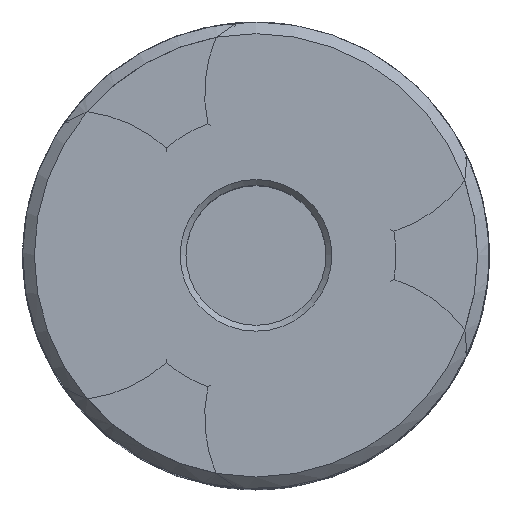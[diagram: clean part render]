
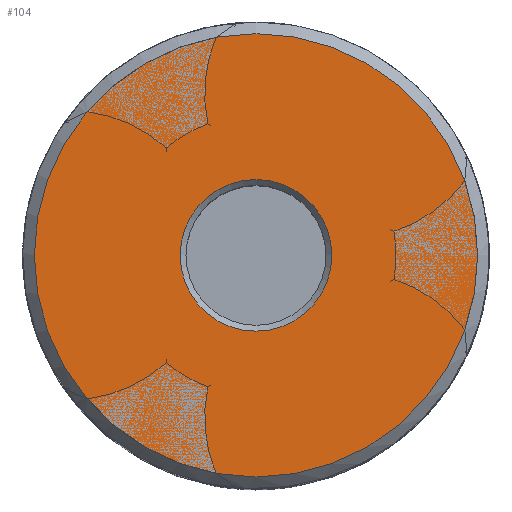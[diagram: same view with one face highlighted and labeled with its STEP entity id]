
A CAD part, top view. The second image highlights one B-rep face of the part: STEP entity #104.
In plain terms, the highlighted planar face has unit normal (0, 0, 1) as drawn and (0, 0, -1) by its records, which use the part's own axes.
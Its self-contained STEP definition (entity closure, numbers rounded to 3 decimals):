
#104 = ADVANCED_FACE( '', ( #227, #228 ), #229, .T. );
#227 = FACE_OUTER_BOUND( '', #382, .T. );
#228 = FACE_BOUND( '', #383, .T. );
#229 = PLANE( '', #384 );
#382 = EDGE_LOOP( '', ( #653 ) );
#383 = EDGE_LOOP( '', ( #654 ) );
#384 = AXIS2_PLACEMENT_3D( '', #655, #656, #657 );
#653 = ORIENTED_EDGE( '', *, *, #1138, .T. );
#654 = ORIENTED_EDGE( '', *, *, #1139, .T. );
#655 = CARTESIAN_POINT( '', ( 0., 0., 0. ) );
#656 = DIRECTION( '', ( 0., 0., -1. ) );
#657 = DIRECTION( '', ( 0., -1., 0. ) );
#1138 = EDGE_CURVE( '', #1474, #1474, #1475, .T. );
#1139 = EDGE_CURVE( '', #1476, #1476, #1477, .F. );
#1474 = VERTEX_POINT( '', #2405 );
#1475 = CIRCLE( '', #2406, 19. );
#1476 = VERTEX_POINT( '', #2407 );
#1477 = CIRCLE( '', #2408, 6.5 );
#2405 = CARTESIAN_POINT( '', ( -19., 0., 0. ) );
#2406 = AXIS2_PLACEMENT_3D( '', #2887, #2888, #2889 );
#2407 = CARTESIAN_POINT( '', ( -6.5, 0., 0. ) );
#2408 = AXIS2_PLACEMENT_3D( '', #2890, #2891, #2892 );
#2887 = CARTESIAN_POINT( '', ( 0., 0., 0. ) );
#2888 = DIRECTION( '', ( 0., 0., -1. ) );
#2889 = DIRECTION( '', ( -1., 0., 0. ) );
#2890 = CARTESIAN_POINT( '', ( 0., 0., 0. ) );
#2891 = DIRECTION( '', ( 0., 0., -1. ) );
#2892 = DIRECTION( '', ( -1., 0., 0. ) );
